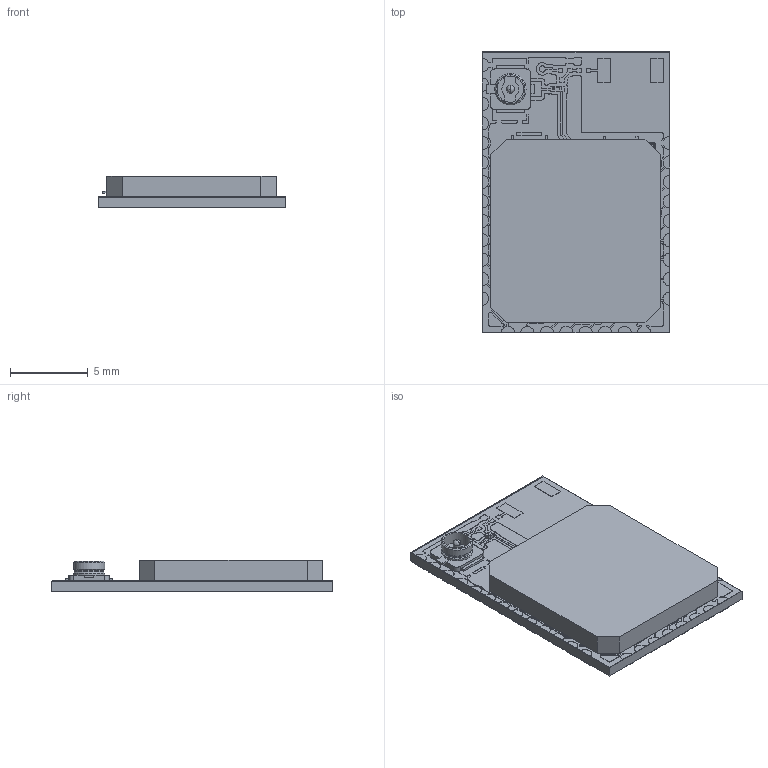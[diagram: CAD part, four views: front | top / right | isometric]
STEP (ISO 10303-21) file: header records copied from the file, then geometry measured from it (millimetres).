
FILE_DESCRIPTION(/* description */ (''),/* implementation_level */ '2;1');
FILE_NAME(/* name */ 'C:/Users/tohakkil/Documents/STEP models/Final module STEP models/BLE112-E.step',/* time_stamp */ '2019-09-24T14:30:44+03:00',/* author */ (''),/* organization */ (''),/* preprocessor_version */ 'ST-DEVELOPER v18',/* originating_system */ 'Autodesk Translation Framework v8.6.0.1094',/* authorisation */ '');
FILE_SCHEMA (('AUTOMOTIVE_DESIGN { 1 0 10303 214 3 1 1 }'));
Products named in the file (148): (Unsaved); DesignRootModel; uid__112; uid__111; uid__110; uid__109; uid__108; uid__107; uid__106; uid__105; uid__104; uid__103; uid__102; uid__101; uid__100; uid__99; uid__98; uid__97; uid__96; uid__95; uid__94; uid__93; uid__92; uid__91; uid__90; uid__89; uid__88; uid__87; uid__86; uid__85; uid__84; uid__83; uid__82; uid__81; uid__80; uid__79; uid__78; uid__77; uid__76; uid__75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
Assembly tree (156 placements, depth 5):
  (Unsaved)
    DesignRootModel
      uid__112
      uid__111
      uid__110
      uid__109
      uid__108
      uid__107
      uid__106
      uid__105
      uid__104
      uid__103
      uid__102
      uid__101
      uid__100
      uid__99
      uid__98
      uid__97
      uid__96
      uid__95
      uid__94
      uid__93
      uid__92
      uid__91
      uid__90
      uid__89
      uid__88
      uid__87
      uid__86
      uid__85
      uid__84
      uid__83
      uid__82
      uid__81
      uid__80
      uid__79
      uid__78
      uid__77
      uid__76
      uid__75
      uid__74
      uid__73
      uid__72
      uid__71
      uid__70
      uid__67
      uid__66
      uid__65
      uid__64
      uid__63
      uid__62
      uid__61
      uid__60
      uid__59
      uid__58
      uid__57
      uid__56
      uid__55
      uid__54
      uid__53
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Bounding box: 12.05 x 18.1 x 2 mm (x, y, z)
Volume: 322.6 mm3; surface area: 1973.5 mm2
Topology: 137 solids, 137 shells, 2655 faces, 7090 edges, 4711 vertices
Faces by surface type: plane 1639, cylinder 986, sphere 24, cone 4, bspline 2
Full cylindrical faces by diameter (mm): 0.4 x14, 0.447 x1, 0.5 x1, 1.7 x1, 1.86 x1, 2 x2
Entity records: 84252 total; most frequent: DIRECTION 14397, CARTESIAN_POINT 14305, ORIENTED_EDGE 13626, EDGE_CURVE 6813, LINE 4875, VECTOR 4875, AXIS2_PLACEMENT_3D 4761, VERTEX_POINT 4543
